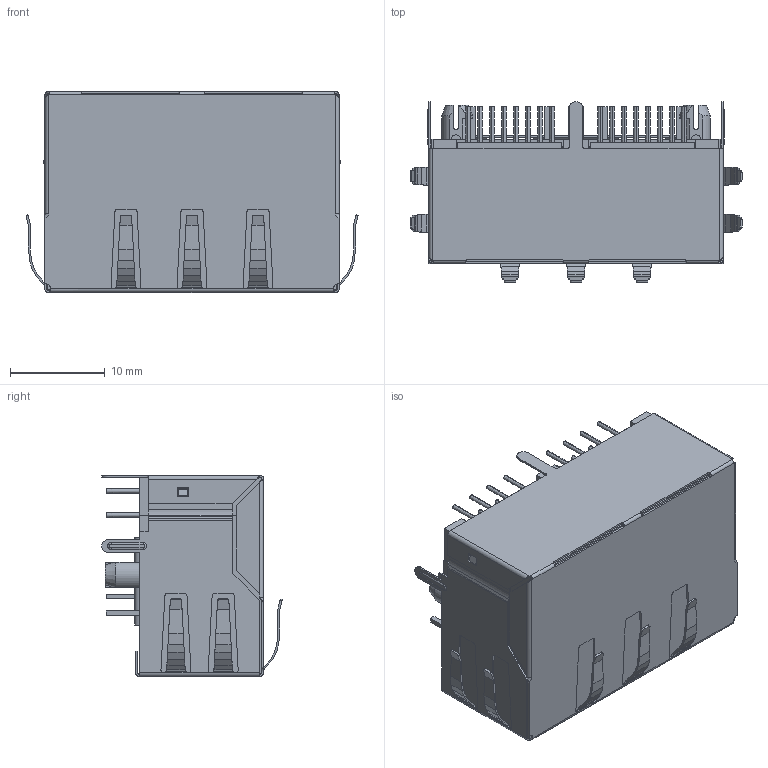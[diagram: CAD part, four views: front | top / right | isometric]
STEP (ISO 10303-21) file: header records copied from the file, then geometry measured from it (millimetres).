
FILE_DESCRIPTION((''),'2;1');
FILE_NAME('5921S-1X2-EMI_ASM','2021-12-15T16:18:52',('Hi 洪启武'),(''),'CREO PARAMETRIC BY PTC INC, 2020281','CREO PARAMETRIC BY PTC INC, 2020281','');
FILE_SCHEMA(('CONFIG_CONTROL_DESIGN','GEOMETRIC_VALIDATION_PROPERTIES_MIM'));
Products named in the file (4): 5921-1X2-00; 5921-00; 5921S-LED-1X2-EMI-000; 5921S-1X2-EMI_ASM
Assembly tree (4 placements, depth 2):
  5921S-1X2-EMI_ASM
    5921-1X2-00
    5921-00  x2
    5921S-LED-1X2-EMI-000
Bounding box: 35.12 x 19.1 x 21.27 mm (x, y, z)
Volume: 5329.3 mm3; surface area: 12279.4 mm2
Topology: 20 solids, 20 shells, 1895 faces, 4821 edges, 2917 vertices
Faces by surface type: plane 1092, bspline 410, cylinder 321, cone 68, torus 4
Entity records: 55470 total; most frequent: CARTESIAN_POINT 20090, ORIENTED_EDGE 7804, DIRECTION 6341, EDGE_CURVE 3902, VECTOR 2963, LINE 2963, VERTEX_POINT 2355, AXIS2_PLACEMENT_3D 1689
